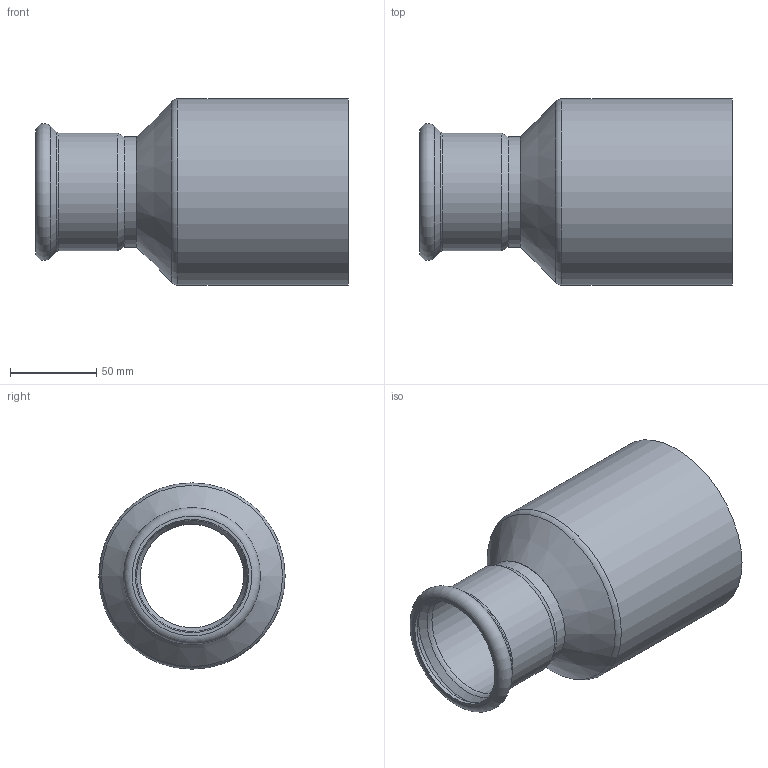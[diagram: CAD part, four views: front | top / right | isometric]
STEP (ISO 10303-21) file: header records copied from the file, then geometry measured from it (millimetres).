
FILE_DESCRIPTION((''),'2;1');
FILE_NAME('G:\Nirosan-Schmiedefeld\Technics\CAD\Bauteile VA\108\6924310864(0).stp','2009-05-08T09:53:50',('herberg'),(''),'Autodesk Inventor 2009','Autodesk Inventor 2009','');
FILE_SCHEMA(('AUTOMOTIVE_DESIGN { 1 0 10303 214 1 1 1 1 }'));
Length unit declared in the file: millimetre
Products named in the file (3): 6924310864(0); R_6924310864(0); HM_6924364(0)
Assembly tree (2 placements, depth 2):
  6924310864(0)
    R_6924310864(0)
    HM_6924364(0)
Bounding box: 181.5 x 108 x 108 mm (x, y, z)
Volume: 110688.5 mm3; surface area: 112546.4 mm2
Topology: 2 solids, 2 shells, 25 faces, 46 edges, 26 vertices
Faces by surface type: cylinder 8, cone 6, plane 5, torus 3, bspline 3
Full cylindrical faces by diameter (mm): 60 x2, 64 x1, 64.4 x1, 65.7 x1, 68.4 x1, 104 x1, 108 x1
Entity records: 714 total; most frequent: CARTESIAN_POINT 212, DIRECTION 104, AXIS2_PLACEMENT_3D 52, ORIENTED_EDGE 50, EDGE_LOOP 50, VERTEX_POINT 25, CIRCLE 25, EDGE_CURVE 25
